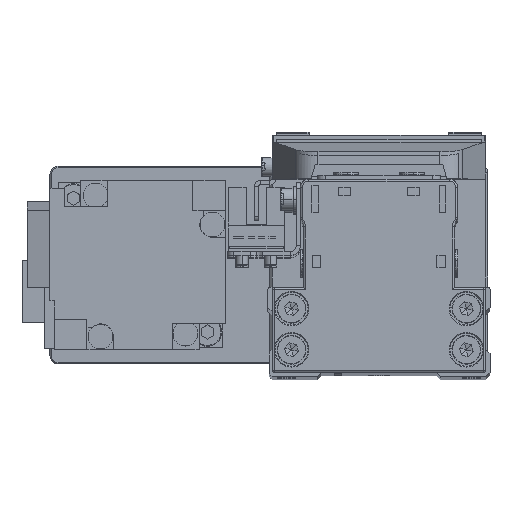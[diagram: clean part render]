
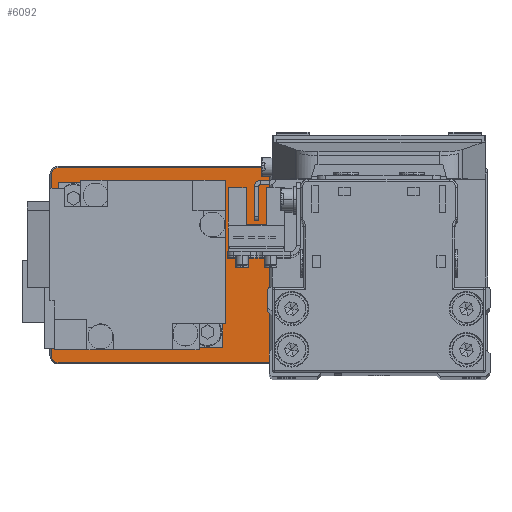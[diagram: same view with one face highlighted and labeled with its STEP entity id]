
A CAD part, top view. The second image highlights one B-rep face of the part: STEP entity #6092.
In plain terms, the highlighted planar face has unit normal (0, 0, 1).
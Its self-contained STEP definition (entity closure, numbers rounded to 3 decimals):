
#1189 = CARTESIAN_POINT ( 'NONE',  ( -28., 0., 5. ) ) ;
#1487 = CARTESIAN_POINT ( 'NONE',  ( 0., 0., 5. ) ) ;
#1761 = CARTESIAN_POINT ( 'NONE',  ( -50., 23.7, 5. ) ) ;
#2304 = DIRECTION ( 'NONE',  ( 1., 0., 0. ) ) ;
#2845 = ORIENTED_EDGE ( 'NONE', *, *, #7095, .T. ) ;
#3804 = AXIS2_PLACEMENT_3D ( 'NONE', #23993, #36298, #8655 ) ;
#4214 = EDGE_CURVE ( 'NONE', #22215, #36851, #38054, .T. ) ;
#4261 = VERTEX_POINT ( 'NONE', #10602 ) ;
#4505 = FACE_BOUND ( 'NONE', #14306, .T. ) ;
#4656 = DIRECTION ( 'NONE',  ( 0., 0., -1. ) ) ;
#4917 = CIRCLE ( 'NONE', #27501, 12.8 ) ;
#4963 = CARTESIAN_POINT ( 'NONE',  ( 51.7, 22., 5. ) ) ;
#5399 = AXIS2_PLACEMENT_3D ( 'NONE', #1487, #13774, #26116 ) ;
#5960 = DIRECTION ( 'NONE',  ( 1., 0., 0. ) ) ;
#6092 = ADVANCED_FACE ( 'NONE', ( #32154, #4505, #16803 ), #29121, .T. ) ;
#6585 = EDGE_CURVE ( 'NONE', #35774, #20223, #24536, .T. ) ;
#7095 = EDGE_CURVE ( 'NONE', #36851, #31690, #38088, .T. ) ;
#7122 = AXIS2_PLACEMENT_3D ( 'NONE', #32307, #4656, #16958 ) ;
#7233 = CIRCLE ( 'NONE', #29806, 1.7 ) ;
#7241 = DIRECTION ( 'NONE',  ( 0., 0., -1. ) ) ;
#7414 = EDGE_CURVE ( 'NONE', #25028, #12866, #32613, .T. ) ;
#7811 = AXIS2_PLACEMENT_3D ( 'NONE', #1189, #13478, #25813 ) ;
#8407 = CARTESIAN_POINT ( 'NONE',  ( -51.7, 22., 5. ) ) ;
#8466 = CARTESIAN_POINT ( 'NONE',  ( 50., -23.7, 5. ) ) ;
#8655 = DIRECTION ( 'NONE',  ( 1., 0., 0. ) ) ;
#9109 = VECTOR ( 'NONE', #17260, 1000. ) ;
#9770 = DIRECTION ( 'NONE',  ( 1., 0., 0. ) ) ;
#9863 = ORIENTED_EDGE ( 'NONE', *, *, #7414, .T. ) ;
#10400 = CARTESIAN_POINT ( 'NONE',  ( -51.7, -22., 5. ) ) ;
#10602 = CARTESIAN_POINT ( 'NONE',  ( 50., -23.7, 5. ) ) ;
#11048 = CARTESIAN_POINT ( 'NONE',  ( -50., -22., 5. ) ) ;
#11336 = CARTESIAN_POINT ( 'NONE',  ( -38.3, 0., 5. ) ) ;
#12389 = VECTOR ( 'NONE', #14044, 1000. ) ;
#12866 = VERTEX_POINT ( 'NONE', #14303 ) ;
#12980 = VERTEX_POINT ( 'NONE', #27835 ) ;
#13169 = CIRCLE ( 'NONE', #35727, 1.7 ) ;
#13238 = EDGE_CURVE ( 'NONE', #29554, #14319, #29400, .T. ) ;
#13291 = ORIENTED_EDGE ( 'NONE', *, *, #23075, .T. ) ;
#13478 = DIRECTION ( 'NONE',  ( 0., 0., -1. ) ) ;
#13774 = DIRECTION ( 'NONE',  ( 0., 0., 1. ) ) ;
#14044 = DIRECTION ( 'NONE',  ( -1., 0., 0. ) ) ;
#14303 = CARTESIAN_POINT ( 'NONE',  ( 51.7, 22., 5. ) ) ;
#14306 = EDGE_LOOP ( 'NONE', ( #29025, #38116 ) ) ;
#14319 = VERTEX_POINT ( 'NONE', #31061 ) ;
#14503 = VECTOR ( 'NONE', #20782, 1000. ) ;
#14545 = CARTESIAN_POINT ( 'NONE',  ( 50., 23.7, 5. ) ) ;
#15321 = ORIENTED_EDGE ( 'NONE', *, *, #4214, .T. ) ;
#15396 = CARTESIAN_POINT ( 'NONE',  ( 17.2, 0., 5. ) ) ;
#16040 = CIRCLE ( 'NONE', #3804, 10.3 ) ;
#16803 = FACE_OUTER_BOUND ( 'NONE', #21421, .T. ) ;
#16958 = DIRECTION ( 'NONE',  ( 1., 0., 0. ) ) ;
#16976 = EDGE_CURVE ( 'NONE', #12866, #29554, #13169, .T. ) ;
#17260 = DIRECTION ( 'NONE',  ( 0., 1., 0. ) ) ;
#17627 = CARTESIAN_POINT ( 'NONE',  ( 50., -22., 5. ) ) ;
#17997 = CARTESIAN_POINT ( 'NONE',  ( -50., -23.7, 5. ) ) ;
#18308 = AXIS2_PLACEMENT_3D ( 'NONE', #25134, #37432, #9770 ) ;
#19538 = DIRECTION ( 'NONE',  ( 1., 0., 0. ) ) ;
#20022 = EDGE_LOOP ( 'NONE', ( #26218, #38313 ) ) ;
#20045 = CIRCLE ( 'NONE', #7811, 10.3 ) ;
#20092 = CARTESIAN_POINT ( 'NONE',  ( 42.8, 0., 5. ) ) ;
#20223 = VERTEX_POINT ( 'NONE', #20092 ) ;
#20550 = EDGE_CURVE ( 'NONE', #14319, #22215, #35721, .T. ) ;
#20691 = AXIS2_PLACEMENT_3D ( 'NONE', #11048, #23382, #35680 ) ;
#20782 = DIRECTION ( 'NONE',  ( 1., 0., 0. ) ) ;
#21300 = CARTESIAN_POINT ( 'NONE',  ( 50., 22., 5. ) ) ;
#21421 = EDGE_LOOP ( 'NONE', ( #13291, #25430, #9863, #37312, #37117, #33897, #15321, #2845 ) ) ;
#22215 = VERTEX_POINT ( 'NONE', #8407 ) ;
#22726 = DIRECTION ( 'NONE',  ( 0., -1., 0. ) ) ;
#23075 = EDGE_CURVE ( 'NONE', #31690, #4261, #36113, .T. ) ;
#23382 = DIRECTION ( 'NONE',  ( 0., 0., 1. ) ) ;
#23993 = CARTESIAN_POINT ( 'NONE',  ( -28., 0., 5. ) ) ;
#24289 = EDGE_CURVE ( 'NONE', #20223, #35774, #4917, .T. ) ;
#24536 = CIRCLE ( 'NONE', #7122, 12.8 ) ;
#25028 = VERTEX_POINT ( 'NONE', #25123 ) ;
#25123 = CARTESIAN_POINT ( 'NONE',  ( 51.7, -22., 5. ) ) ;
#25134 = CARTESIAN_POINT ( 'NONE',  ( -50., 22., 5. ) ) ;
#25430 = ORIENTED_EDGE ( 'NONE', *, *, #34744, .T. ) ;
#25813 = DIRECTION ( 'NONE',  ( 1., 0., 0. ) ) ;
#26116 = DIRECTION ( 'NONE',  ( 1., 0., 0. ) ) ;
#26218 = ORIENTED_EDGE ( 'NONE', *, *, #24289, .T. ) ;
#27501 = AXIS2_PLACEMENT_3D ( 'NONE', #34883, #7241, #19538 ) ;
#27835 = CARTESIAN_POINT ( 'NONE',  ( -17.7, 0., 5. ) ) ;
#28798 = EDGE_CURVE ( 'NONE', #12980, #37289, #16040, .T. ) ;
#29025 = ORIENTED_EDGE ( 'NONE', *, *, #28798, .T. ) ;
#29121 = PLANE ( 'NONE',  #5399 ) ;
#29400 = LINE ( 'NONE', #1761, #12389 ) ;
#29554 = VERTEX_POINT ( 'NONE', #14545 ) ;
#29806 = AXIS2_PLACEMENT_3D ( 'NONE', #17627, #29949, #2304 ) ;
#29949 = DIRECTION ( 'NONE',  ( 0., 0., 1. ) ) ;
#31061 = CARTESIAN_POINT ( 'NONE',  ( -50., 23.7, 5. ) ) ;
#31157 = VECTOR ( 'NONE', #22726, 1000. ) ;
#31690 = VERTEX_POINT ( 'NONE', #17997 ) ;
#31856 = CARTESIAN_POINT ( 'NONE',  ( -51.7, -22., 5. ) ) ;
#32154 = FACE_BOUND ( 'NONE', #20022, .T. ) ;
#32307 = CARTESIAN_POINT ( 'NONE',  ( 30., 0., 5. ) ) ;
#32613 = LINE ( 'NONE', #4963, #9109 ) ;
#33602 = DIRECTION ( 'NONE',  ( 0., 0., 1. ) ) ;
#33698 = EDGE_CURVE ( 'NONE', #37289, #12980, #20045, .T. ) ;
#33897 = ORIENTED_EDGE ( 'NONE', *, *, #20550, .T. ) ;
#34744 = EDGE_CURVE ( 'NONE', #4261, #25028, #7233, .T. ) ;
#34883 = CARTESIAN_POINT ( 'NONE',  ( 30., 0., 5. ) ) ;
#35680 = DIRECTION ( 'NONE',  ( 1., 0., 0. ) ) ;
#35721 = CIRCLE ( 'NONE', #18308, 1.7 ) ;
#35727 = AXIS2_PLACEMENT_3D ( 'NONE', #21300, #33602, #5960 ) ;
#35774 = VERTEX_POINT ( 'NONE', #15396 ) ;
#36113 = LINE ( 'NONE', #8466, #14503 ) ;
#36298 = DIRECTION ( 'NONE',  ( 0., 0., -1. ) ) ;
#36851 = VERTEX_POINT ( 'NONE', #31856 ) ;
#37117 = ORIENTED_EDGE ( 'NONE', *, *, #13238, .T. ) ;
#37289 = VERTEX_POINT ( 'NONE', #11336 ) ;
#37312 = ORIENTED_EDGE ( 'NONE', *, *, #16976, .T. ) ;
#37432 = DIRECTION ( 'NONE',  ( 0., 0., 1. ) ) ;
#38054 = LINE ( 'NONE', #10400, #31157 ) ;
#38088 = CIRCLE ( 'NONE', #20691, 1.7 ) ;
#38116 = ORIENTED_EDGE ( 'NONE', *, *, #33698, .T. ) ;
#38313 = ORIENTED_EDGE ( 'NONE', *, *, #6585, .T. ) ;
